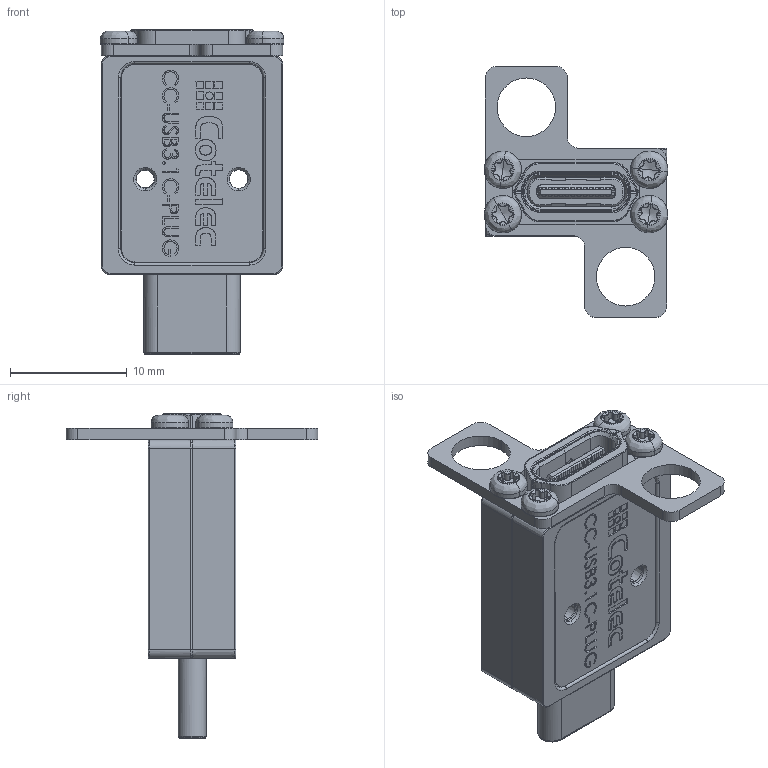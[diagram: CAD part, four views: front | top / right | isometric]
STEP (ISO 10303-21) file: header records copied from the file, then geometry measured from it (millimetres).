
FILE_DESCRIPTION (( 'STEP AP214' ), '1' );
FILE_NAME ('USB-C - ARF 198 008 USB C.STEP', '2024-07-10T13:02:58', ( '' ), ( '' ), 'SwSTEP 2.0', 'SolidWorks 2015', '' );
FILE_SCHEMA (( 'AUTOMOTIVE_DESIGN' ));
Length unit declared in the file: millimetre
Products named in the file (11): Type-C Male; Type-C femelle; 8124_106; Vis M1.6x4; 8124_109; USB-C - ARF 198 008 USB C; 8124_105; 8124_108; 8124_003_USB-C; 8124_072-B USB type C; 8124_103
Assembly tree (13 placements, depth 3):
  USB-C - ARF 198 008 USB C
    8124_103
    8124_003_USB-C
      Type-C Male
      Type-C femelle
      8124_072-B USB type C
    8124_106
    8124_108
    8124_105
    Vis M1.6x4  x4
    8124_109
Bounding box: 15.72 x 21.5 x 27.74 mm (x, y, z)
Volume: 1750.9 mm3; surface area: 5900.4 mm2
Topology: 13 solids, 20 shells, 5649 faces, 15407 edges, 9797 vertices
Faces by surface type: plane 2613, cylinder 1984, bspline 674, cone 158, torus 127, sphere 93
Entity records: 195450 total; most frequent: CARTESIAN_POINT 62956, ORIENTED_EDGE 29426, DIRECTION 25175, EDGE_CURVE 14713, VERTEX_POINT 9455, LINE 8981, VECTOR 8981, AXIS2_PLACEMENT_3D 8097
